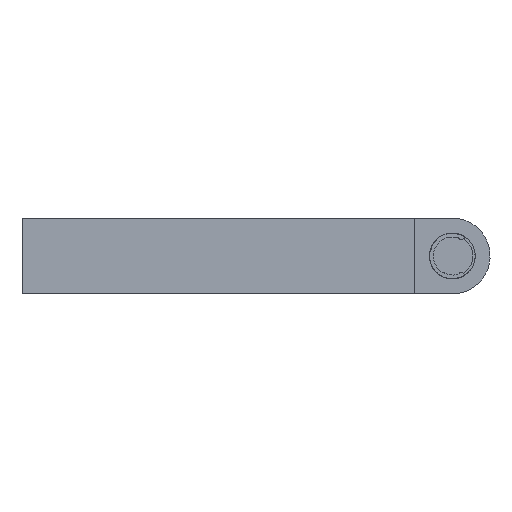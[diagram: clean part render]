
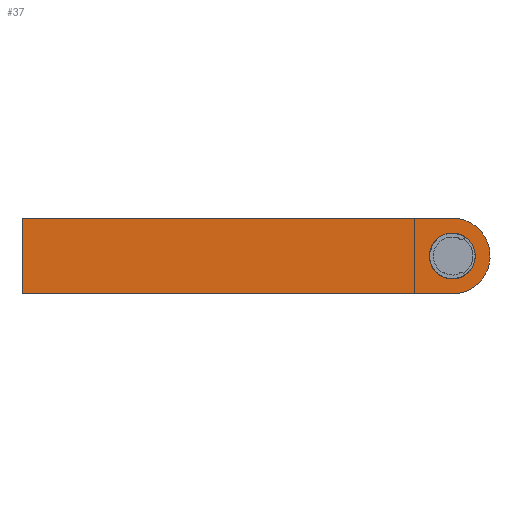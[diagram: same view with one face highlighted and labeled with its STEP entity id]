
A CAD part, left-side view. The second image highlights one B-rep face of the part: STEP entity #37.
In plain terms, the highlighted planar face has unit normal (-1, 0, 0).
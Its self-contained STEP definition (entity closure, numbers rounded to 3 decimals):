
#37=ADVANCED_FACE('',(#63),#344,.T.);
#63=FACE_OUTER_BOUND('',#89,.T.);
#89=EDGE_LOOP('',(#130,#131,#132,#133));
#130=ORIENTED_EDGE('',*,*,#206,.T.);
#131=ORIENTED_EDGE('',*,*,#210,.T.);
#132=ORIENTED_EDGE('',*,*,#213,.T.);
#133=ORIENTED_EDGE('',*,*,#215,.T.);
#206=EDGE_CURVE('',#301,#300,#255,.T.);
#210=EDGE_CURVE('',#300,#303,#259,.T.);
#213=EDGE_CURVE('',#303,#305,#262,.T.);
#215=EDGE_CURVE('',#305,#301,#264,.T.);
#255=(
BOUNDED_CURVE()
B_SPLINE_CURVE(2,(#522,#523,#524,#525,#526),.UNSPECIFIED.,.F.,.F.)
B_SPLINE_CURVE_WITH_KNOTS((3,2,3),(-300.071,-289.089,
-194.089),.UNSPECIFIED.)
CURVE()
GEOMETRIC_REPRESENTATION_ITEM()
RATIONAL_B_SPLINE_CURVE((1.,1.,1.,1.,1.))
REPRESENTATION_ITEM('')
);
#259=(
BOUNDED_CURVE()
B_SPLINE_CURVE(2,(#534,#535,#536),.UNSPECIFIED.,.F.,.F.)
B_SPLINE_CURVE_WITH_KNOTS((3,3),(-194.089,-164.089),
 .UNSPECIFIED.)
CURVE()
GEOMETRIC_REPRESENTATION_ITEM()
RATIONAL_B_SPLINE_CURVE((1.,1.,1.))
REPRESENTATION_ITEM('')
);
#262=(
BOUNDED_CURVE()
B_SPLINE_CURVE(2,(#544,#545,#546,#547,#548),.UNSPECIFIED.,.F.,.F.)
B_SPLINE_CURVE_WITH_KNOTS((3,2,3),(-164.089,-69.089,
-58.106),.UNSPECIFIED.)
CURVE()
GEOMETRIC_REPRESENTATION_ITEM()
RATIONAL_B_SPLINE_CURVE((1.,1.,1.,1.,1.))
REPRESENTATION_ITEM('')
);
#264=(
BOUNDED_CURVE()
B_SPLINE_CURVE(2,(#554,#555,#556,#557,#558),.UNSPECIFIED.,.F.,.F.)
B_SPLINE_CURVE_WITH_KNOTS((3,2,3),(-58.106,-34.544,-10.982),
 .UNSPECIFIED.)
CURVE()
GEOMETRIC_REPRESENTATION_ITEM()
RATIONAL_B_SPLINE_CURVE((1.,0.707,1.,0.707,1.))
REPRESENTATION_ITEM('')
);
#300=VERTEX_POINT('',#509);
#301=VERTEX_POINT('',#510);
#303=VERTEX_POINT('',#512);
#305=VERTEX_POINT('',#514);
#344=PLANE('',#449);
#449=AXIS2_PLACEMENT_3D('',#506,#477,$);
#477=DIRECTION('',(-1.,0.,0.));
#506=CARTESIAN_POINT('',(-317.738,605.622,540.057));
#509=CARTESIAN_POINT('',(-317.738,813.737,573.807));
#510=CARTESIAN_POINT('',(-317.738,643.746,573.807));
#512=CARTESIAN_POINT('',(-317.738,813.737,543.807));
#514=CARTESIAN_POINT('',(-317.738,643.746,543.807));
#522=CARTESIAN_POINT('',(-317.738,643.746,573.807));
#523=CARTESIAN_POINT('',(-317.738,649.237,573.807));
#524=CARTESIAN_POINT('',(-317.738,654.729,573.807));
#525=CARTESIAN_POINT('',(-317.738,734.233,573.807));
#526=CARTESIAN_POINT('',(-317.738,813.737,573.807));
#534=CARTESIAN_POINT('',(-317.738,813.737,573.807));
#535=CARTESIAN_POINT('',(-317.738,813.737,558.807));
#536=CARTESIAN_POINT('',(-317.738,813.737,543.807));
#544=CARTESIAN_POINT('',(-317.738,813.737,543.807));
#545=CARTESIAN_POINT('',(-317.738,734.233,543.807));
#546=CARTESIAN_POINT('',(-317.738,654.729,543.807));
#547=CARTESIAN_POINT('',(-317.738,649.237,543.807));
#548=CARTESIAN_POINT('',(-317.738,643.746,543.807));
#554=CARTESIAN_POINT('',(-317.738,643.746,543.807));
#555=CARTESIAN_POINT('',(-317.738,628.746,543.807));
#556=CARTESIAN_POINT('',(-317.738,628.746,558.807));
#557=CARTESIAN_POINT('',(-317.738,628.746,573.807));
#558=CARTESIAN_POINT('',(-317.738,643.746,573.807));
